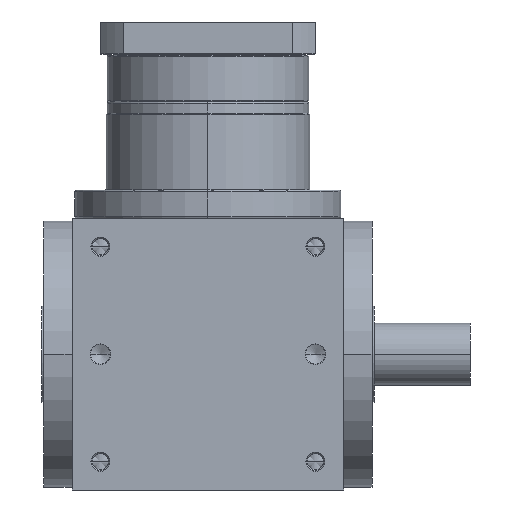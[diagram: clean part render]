
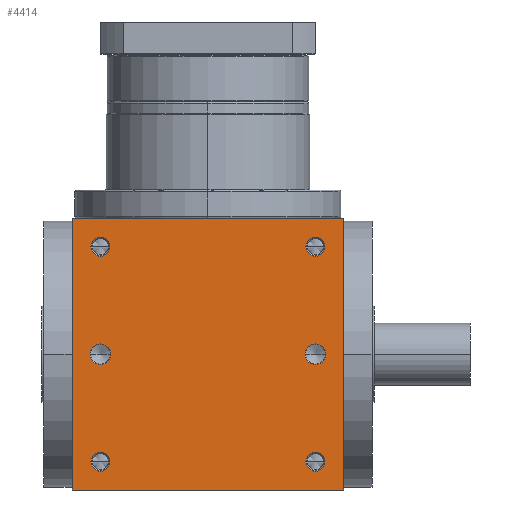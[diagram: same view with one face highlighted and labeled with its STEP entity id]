
A CAD part, front view. The second image highlights one B-rep face of the part: STEP entity #4414.
In plain terms, the highlighted planar face has unit normal (0, -1, 0).
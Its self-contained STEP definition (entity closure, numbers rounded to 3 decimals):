
#5=DIRECTION('',(1.,0.,0.));
#6=VECTOR('',#5,240.);
#7=CARTESIAN_POINT('',(-120.,-120.,-120.));
#8=LINE('',#7,#6);
#155=DIRECTION('',(0.,0.,1.));
#156=VECTOR('',#155,240.);
#157=CARTESIAN_POINT('',(120.,-120.,-120.));
#158=LINE('',#157,#156);
#209=DIRECTION('',(0.,0.,1.));
#210=VECTOR('',#209,240.);
#211=CARTESIAN_POINT('',(-120.,-120.,-120.));
#212=LINE('',#211,#210);
#213=CARTESIAN_POINT('',(95.,-120.,95.));
#214=DIRECTION('',(0.,1.,0.));
#215=DIRECTION('',(-1.,0.,0.));
#216=AXIS2_PLACEMENT_3D('',#213,#214,#215);
#218=CARTESIAN_POINT('',(95.,-120.,95.));
#219=DIRECTION('',(0.,1.,0.));
#220=DIRECTION('',(1.,0.,0.));
#221=AXIS2_PLACEMENT_3D('',#218,#219,#220);
#223=CARTESIAN_POINT('',(-95.,-120.,95.));
#224=DIRECTION('',(0.,1.,0.));
#225=DIRECTION('',(-1.,0.,0.));
#226=AXIS2_PLACEMENT_3D('',#223,#224,#225);
#228=CARTESIAN_POINT('',(-95.,-120.,95.));
#229=DIRECTION('',(0.,1.,0.));
#230=DIRECTION('',(1.,0.,0.));
#231=AXIS2_PLACEMENT_3D('',#228,#229,#230);
#233=CARTESIAN_POINT('',(95.,-120.,-95.));
#234=DIRECTION('',(0.,1.,0.));
#235=DIRECTION('',(-1.,0.,0.));
#236=AXIS2_PLACEMENT_3D('',#233,#234,#235);
#238=CARTESIAN_POINT('',(95.,-120.,-95.));
#239=DIRECTION('',(0.,1.,0.));
#240=DIRECTION('',(1.,0.,0.));
#241=AXIS2_PLACEMENT_3D('',#238,#239,#240);
#243=CARTESIAN_POINT('',(-95.,-120.,-95.));
#244=DIRECTION('',(0.,1.,0.));
#245=DIRECTION('',(-1.,0.,0.));
#246=AXIS2_PLACEMENT_3D('',#243,#244,#245);
#248=CARTESIAN_POINT('',(-95.,-120.,-95.));
#249=DIRECTION('',(0.,1.,0.));
#250=DIRECTION('',(1.,0.,0.));
#251=AXIS2_PLACEMENT_3D('',#248,#249,#250);
#253=CARTESIAN_POINT('',(-95.,-120.,0.));
#254=DIRECTION('',(0.,1.,0.));
#255=DIRECTION('',(1.,0.,0.));
#256=AXIS2_PLACEMENT_3D('',#253,#254,#255);
#258=CARTESIAN_POINT('',(-95.,-120.,0.));
#259=DIRECTION('',(0.,1.,0.));
#260=DIRECTION('',(-1.,0.,0.));
#261=AXIS2_PLACEMENT_3D('',#258,#259,#260);
#263=CARTESIAN_POINT('',(95.,-120.,0.));
#264=DIRECTION('',(0.,1.,0.));
#265=DIRECTION('',(1.,0.,0.));
#266=AXIS2_PLACEMENT_3D('',#263,#264,#265);
#268=CARTESIAN_POINT('',(95.,-120.,0.));
#269=DIRECTION('',(0.,1.,0.));
#270=DIRECTION('',(-1.,0.,0.));
#271=AXIS2_PLACEMENT_3D('',#268,#269,#270);
#285=DIRECTION('',(1.,0.,0.));
#286=VECTOR('',#285,240.);
#287=CARTESIAN_POINT('',(-120.,-120.,120.));
#288=LINE('',#287,#286);
#3532=CARTESIAN_POINT('',(-120.,-120.,-120.));
#3534=VERTEX_POINT('',#3532);
#3535=CARTESIAN_POINT('',(120.,-120.,-120.));
#3536=VERTEX_POINT('',#3535);
#3540=CARTESIAN_POINT('',(-120.,-120.,120.));
#3542=VERTEX_POINT('',#3540);
#3543=CARTESIAN_POINT('',(120.,-120.,120.));
#3544=VERTEX_POINT('',#3543);
#3715=CARTESIAN_POINT('',(86.6,-120.,95.));
#3716=CARTESIAN_POINT('',(103.4,-120.,95.));
#3717=VERTEX_POINT('',#3715);
#3718=VERTEX_POINT('',#3716);
#3723=CARTESIAN_POINT('',(-103.4,-120.,95.));
#3724=CARTESIAN_POINT('',(-86.6,-120.,95.));
#3725=VERTEX_POINT('',#3723);
#3726=VERTEX_POINT('',#3724);
#3731=CARTESIAN_POINT('',(86.6,-120.,-95.));
#3732=CARTESIAN_POINT('',(103.4,-120.,-95.));
#3733=VERTEX_POINT('',#3731);
#3734=VERTEX_POINT('',#3732);
#3739=CARTESIAN_POINT('',(-103.4,-120.,-95.));
#3740=CARTESIAN_POINT('',(-86.6,-120.,-95.));
#3741=VERTEX_POINT('',#3739);
#3742=VERTEX_POINT('',#3740);
#4063=CARTESIAN_POINT('',(-85.95,-120.,
0.));
#4064=CARTESIAN_POINT('',(-104.05,-120.,
0.));
#4065=VERTEX_POINT('',#4063);
#4066=VERTEX_POINT('',#4064);
#4071=CARTESIAN_POINT('',(104.05,-120.,0.));
#4072=CARTESIAN_POINT('',(85.95,-120.,0.));
#4073=VERTEX_POINT('',#4071);
#4074=VERTEX_POINT('',#4072);
#4366=CARTESIAN_POINT('',(-120.,-120.,-120.));
#4367=DIRECTION('',(0.,-1.,0.));
#4368=DIRECTION('',(1.,0.,0.));
#4369=AXIS2_PLACEMENT_3D('',#4366,#4367,#4368);
#4370=PLANE('',#4369);
#4371=ORIENTED_EDGE('',*,*,#4206,.F.);
#4372=ORIENTED_EDGE('',*,*,#4249,.T.);
#4374=ORIENTED_EDGE('',*,*,#4373,.T.);
#4375=ORIENTED_EDGE('',*,*,#4328,.F.);
#4376=EDGE_LOOP('',(#4371,#4372,#4374,#4375));
#4377=FACE_OUTER_BOUND('',#4376,.F.);
#4379=ORIENTED_EDGE('',*,*,#4378,.F.);
#4381=ORIENTED_EDGE('',*,*,#4380,.F.);
#4382=EDGE_LOOP('',(#4379,#4381));
#4383=FACE_BOUND('',#4382,.F.);
#4385=ORIENTED_EDGE('',*,*,#4384,.F.);
#4387=ORIENTED_EDGE('',*,*,#4386,.F.);
#4388=EDGE_LOOP('',(#4385,#4387));
#4389=FACE_BOUND('',#4388,.F.);
#4391=ORIENTED_EDGE('',*,*,#4390,.F.);
#4393=ORIENTED_EDGE('',*,*,#4392,.F.);
#4394=EDGE_LOOP('',(#4391,#4393));
#4395=FACE_BOUND('',#4394,.F.);
#4397=ORIENTED_EDGE('',*,*,#4396,.F.);
#4399=ORIENTED_EDGE('',*,*,#4398,.F.);
#4400=EDGE_LOOP('',(#4397,#4399));
#4401=FACE_BOUND('',#4400,.F.);
#4403=ORIENTED_EDGE('',*,*,#4402,.F.);
#4405=ORIENTED_EDGE('',*,*,#4404,.F.);
#4406=EDGE_LOOP('',(#4403,#4405));
#4407=FACE_BOUND('',#4406,.F.);
#4409=ORIENTED_EDGE('',*,*,#4408,.F.);
#4411=ORIENTED_EDGE('',*,*,#4410,.F.);
#4412=EDGE_LOOP('',(#4409,#4411));
#4413=FACE_BOUND('',#4412,.F.);
#4414=ADVANCED_FACE('',(#4377,#4383,#4389,#4395,#4401,#4407,#4413),#4370,.T.);
#217=CIRCLE('',#216,8.4);
#222=CIRCLE('',#221,8.4);
#227=CIRCLE('',#226,8.4);
#232=CIRCLE('',#231,8.4);
#237=CIRCLE('',#236,8.4);
#242=CIRCLE('',#241,8.4);
#247=CIRCLE('',#246,8.4);
#252=CIRCLE('',#251,8.4);
#257=CIRCLE('',#256,9.05);
#262=CIRCLE('',#261,9.05);
#267=CIRCLE('',#266,9.05);
#272=CIRCLE('',#271,9.05);
#4206=EDGE_CURVE('',#3534,#3536,#8,.T.);
#4249=EDGE_CURVE('',#3534,#3542,#212,.T.);
#4328=EDGE_CURVE('',#3536,#3544,#158,.T.);
#4373=EDGE_CURVE('',#3542,#3544,#288,.T.);
#4378=EDGE_CURVE('',#3717,#3718,#217,.T.);
#4380=EDGE_CURVE('',#3718,#3717,#222,.T.);
#4384=EDGE_CURVE('',#3725,#3726,#227,.T.);
#4386=EDGE_CURVE('',#3726,#3725,#232,.T.);
#4390=EDGE_CURVE('',#3733,#3734,#237,.T.);
#4392=EDGE_CURVE('',#3734,#3733,#242,.T.);
#4396=EDGE_CURVE('',#3741,#3742,#247,.T.);
#4398=EDGE_CURVE('',#3742,#3741,#252,.T.);
#4402=EDGE_CURVE('',#4065,#4066,#257,.T.);
#4404=EDGE_CURVE('',#4066,#4065,#262,.T.);
#4408=EDGE_CURVE('',#4073,#4074,#267,.T.);
#4410=EDGE_CURVE('',#4074,#4073,#272,.T.);
